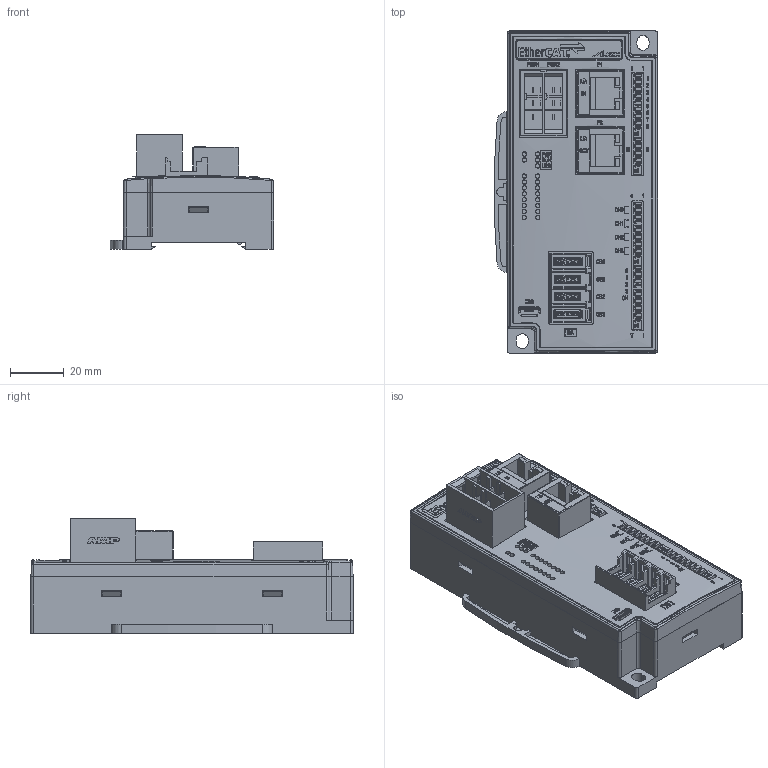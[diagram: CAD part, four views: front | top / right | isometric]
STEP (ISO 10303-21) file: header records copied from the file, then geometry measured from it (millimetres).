
FILE_DESCRIPTION((''),'2;1');
FILE_NAME('ECEA04','2026-05-11T15:51:55',('gijyu181'),(''),'CREO PARAMETRIC BY PTC INC, 2018050','CREO PARAMETRIC BY PTC INC, 2018050','');
FILE_SCHEMA(('CONFIG_CONTROL_DESIGN','SHAPE_APPEARANCE_LAYERS_GROUPS'));
Products named in the file (1): ECEA04
Bounding box: 60.87 x 120 x 42.6 mm (x, y, z)
Volume: 134797.4 mm3; surface area: 85393.2 mm2
Topology: 5 solids, 35 shells, 10373 faces, 29236 edges, 19433 vertices
Faces by surface type: plane 8471, extrusion 960, cylinder 808, bspline 69, cone 41, torus 20, sphere 4
Entity records: 414473 total; most frequent: CARTESIAN_POINT 88002, ORIENTED_EDGE 58472, DIRECTION 48058, EDGE_CURVE 29236, VECTOR 25850, LINE 24890, VERTEX_POINT 19433, EDGE_LOOP 11429
